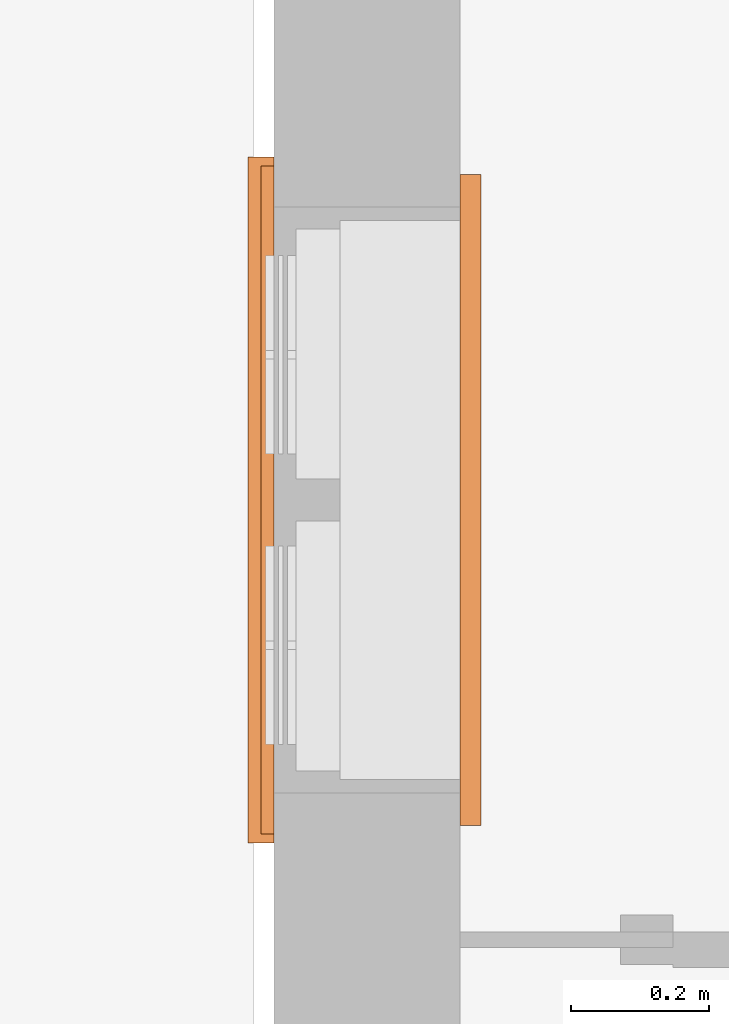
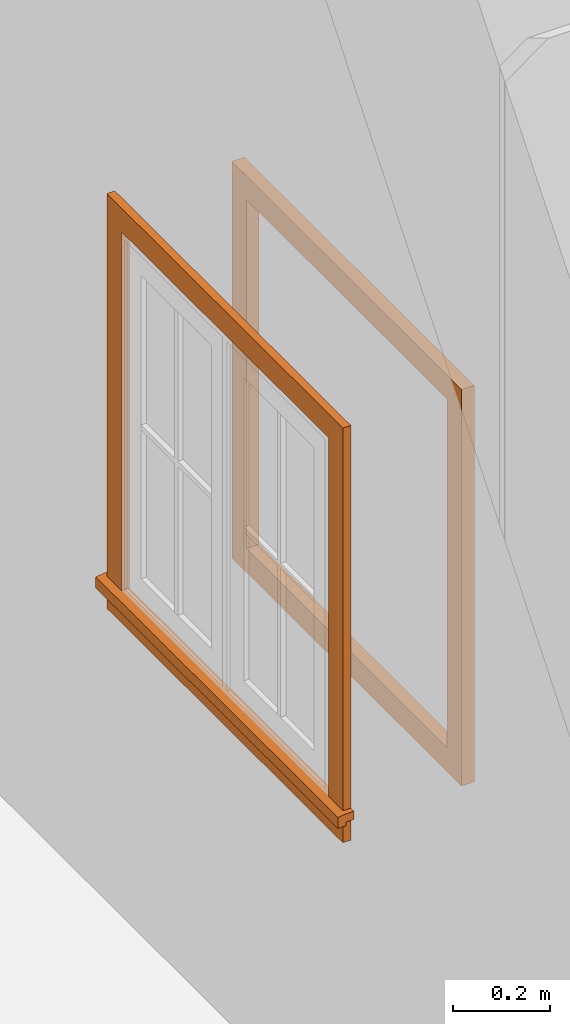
# One storey, part 12 of 16: 2 proxies.
"""IFC2X3 building model written with IfcOpenShell, lengths in millimetres."""

import ifcopenshell
import ifcopenshell.guid

model = None  # the IFC model being written
_history = None  # IfcOwnerHistory: only IFC2X3 demands one
_inside = {}  # id of a spatial element -> (the spatial element, [elements in it])
_under = {}  # id of a project, library or spatial element -> (it, [spatial elements below it])
_declared = {}  # id of a project -> (the project, [libraries it declares])
_typed = {}  # id of a type object -> (the type object, [elements of that type])
_made_of = {}  # id of a material, layer set ... -> (it, [elements and type objects made of it])


def new_model(schema):
    """Start an empty IFC model of exactly this schema.

    Asked for "IFC4X3", IfcOpenShell would pick the latest addendum, in which some entities
    have other attributes; the version numbers below select the first issue.
    IFC2X3 requires an IfcOwnerHistory on every rooted entity: one is made here for all.
    """
    global model, _history
    if schema == "IFC4X3":
        model = ifcopenshell.file(schema_version=(4, 3, 0, 0))
    else:
        model = ifcopenshell.file(schema=schema)
    _inside.clear()
    _under.clear()
    _declared.clear()
    _typed.clear()
    _made_of.clear()
    _history = None
    if model.schema == "IFC2X3":
        org = make("IfcOrganization", Name="unknown")
        user = make(
            "IfcPersonAndOrganization",
            ThePerson=make("IfcPerson", FamilyName="unknown"),
            TheOrganization=org,
        )
        app = make(
            "IfcApplication",
            ApplicationDeveloper=org,
            Version="unknown",
            ApplicationFullName="unknown",
            ApplicationIdentifier="unknown",
        )
        _history = make(
            "IfcOwnerHistory",
            OwningUser=user,
            OwningApplication=app,
            ChangeAction="ADDED",
            CreationDate=0,
        )
    return model


def make(cls, **values):
    """One entity of the class cls with the attributes given. An attribute that is None is left unset."""
    return model.create_entity(
        cls, **{name: value for name, value in values.items() if value is not None}
    )


def entity(cls, *values):
    """Any entity or typed value of the class cls, its attributes in the order of the schema. None: left unset."""
    e = model.create_entity(cls)
    for i, value in enumerate(values):
        if value is not None:
            e[i] = value
    return e


def rooted(cls, **values):
    """An entity with a GlobalId (a new one), such as an element, a storey or a relation."""
    return make(cls, GlobalId=ifcopenshell.guid.new(), OwnerHistory=_history, **values)


def si_unit(unit_type, name, prefix=None):
    """IfcSIUnit, for example si_unit("LENGTHUNIT", "METRE", prefix="MILLI")."""
    return make("IfcSIUnit", UnitType=unit_type, Prefix=prefix, Name=name)


def converted_unit(unit_type, name, factor, base, dimensions=None, offset=None):
    """IfcConversionBasedUnit, such as the inch: factor (a typed value) times the base unit."""
    return make(
        "IfcConversionBasedUnit"
        if offset is None
        else "IfcConversionBasedUnitWithOffset",
        ConversionOffset=offset,
        Dimensions=None
        if dimensions is None
        else entity("IfcDimensionalExponents", *dimensions),
        UnitType=unit_type,
        Name=name,
        ConversionFactor=make(
            "IfcMeasureWithUnit", ValueComponent=factor, UnitComponent=base
        ),
    )


def derived_unit(unit_type, elements):
    """IfcDerivedUnit: a product of units, each with its exponent."""
    return make(
        "IfcDerivedUnit",
        Elements=[
            make("IfcDerivedUnitElement", Unit=unit, Exponent=power)
            for unit, power in elements
        ],
        UnitType=unit_type,
    )


def assignment(units):
    """IfcUnitAssignment: the units of a project."""
    return None if units is None else make("IfcUnitAssignment", Units=units)


def point(xyz):
    """IfcCartesianPoint."""
    return None if xyz is None else make("IfcCartesianPoint", Coordinates=xyz)


def direction(xyz):
    """IfcDirection."""
    return None if xyz is None else make("IfcDirection", DirectionRatios=xyz)


def frame(location, z_axis=None, x_axis=None):
    """IfcAxis2Placement3D, a coordinate frame: its origin and axes. An axis left out is left unset."""
    return make(
        "IfcAxis2Placement3D",
        Location=point(location),
        Axis=direction(z_axis),
        RefDirection=direction(x_axis),
    )


def frame_2d(location, x_axis=None):
    """IfcAxis2Placement2D, a coordinate frame in the plane: its origin and x axis."""
    return make(
        "IfcAxis2Placement2D", Location=point(location), RefDirection=direction(x_axis)
    )


def origin():
    """The frame at (0, 0, 0) with its axes left unset."""
    return frame((0.0, 0.0, 0.0))


def place(relative_to, where):
    """IfcLocalPlacement: puts the frame where relative to a parent placement (None: the world)."""
    return make(
        "IfcLocalPlacement", PlacementRelTo=relative_to, RelativePlacement=where
    )


def context(
    kind, dimensions, precision=None, world=None, true_north=None, identifier=None
):
    """IfcGeometricRepresentationContext, for example the 3D "Model" context."""
    return make(
        "IfcGeometricRepresentationContext",
        ContextIdentifier=identifier,
        ContextType=kind,
        CoordinateSpaceDimension=dimensions,
        Precision=precision,
        WorldCoordinateSystem=world,
        TrueNorth=true_north,
    )


def subcontext(parent, identifier, kind, view, scale=None):
    """IfcGeometricRepresentationSubContext, for example "Body" below "Model"."""
    return make(
        "IfcGeometricRepresentationSubContext",
        ContextIdentifier=identifier,
        ContextType=kind,
        ParentContext=parent,
        TargetScale=scale,
        TargetView=view,
    )


def project(units=None, contexts=None):
    """IfcProject with its units and contexts."""
    return rooted(
        "IfcProject",
        Name="project",
        RepresentationContexts=contexts,
        UnitsInContext=assignment(units),
    )


def spatial(cls, under=None, at=None, **own):
    """A site, building, storey or space (cls), placed at a placement, below another one or the project."""
    s = rooted(cls, ObjectPlacement=at, **own)
    if under is not None:
        _under.setdefault(under.id(), (under, []))[1].append(s)
    return s


def polyline(points):
    """IfcPolyline through the points."""
    return make("IfcPolyline", Points=[point(p) for p in points])


def profile(cls, at=None, kind="AREA", **sizes):
    """A parametric profile (cls). Its sizes go by their IFC names, for example OverallWidth=200.0."""
    return make(cls, ProfileType=kind, Position=at, **sizes)


def rectangle(**sizes):
    """IfcRectangleProfileDef."""
    return profile("IfcRectangleProfileDef", **sizes)


def outline(outer, holes=None, kind="AREA"):
    """IfcArbitraryClosedProfileDef: a profile drawn as a closed curve; with holes, ...WithVoids."""
    if holes is None:
        return make("IfcArbitraryClosedProfileDef", ProfileType=kind, OuterCurve=outer)
    return make(
        "IfcArbitraryProfileDefWithVoids",
        ProfileType=kind,
        OuterCurve=outer,
        InnerCurves=holes,
    )


def extrude(swept, where, along, depth):
    """IfcExtrudedAreaSolid: the profile swept, set in the frame where, extruded along a direction by depth."""
    return make(
        "IfcExtrudedAreaSolid",
        SweptArea=swept,
        Position=where,
        ExtrudedDirection=direction(along),
        Depth=depth,
    )


def shape(context_of_items, identifier, shape_type, items):
    """IfcShapeRepresentation: the items that make up one representation, for example the "Body"."""
    return make(
        "IfcShapeRepresentation",
        ContextOfItems=context_of_items,
        RepresentationIdentifier=identifier,
        RepresentationType=shape_type,
        Items=items,
    )


def source(mapping_origin, context_of_items, identifier, shape_type, items):
    """IfcRepresentationMap: a shape defined once, which mapped items show again and again."""
    return make(
        "IfcRepresentationMap",
        MappingOrigin=mapping_origin,
        MappedRepresentation=shape(context_of_items, identifier, shape_type, items),
    )


def transform(
    local_origin,
    x_axis=None,
    y_axis=None,
    z_axis=None,
    scale=None,
    scale2=None,
    scale3=None,
    uniform=True,
):
    """IfcCartesianTransformationOperator3D, or its non-uniform kind. x_axis, y_axis, z_axis: its Axis1, 2, 3."""
    if uniform:
        return make(
            "IfcCartesianTransformationOperator3D",
            Axis1=direction(x_axis),
            Axis2=direction(y_axis),
            LocalOrigin=point(local_origin),
            Scale=scale,
            Axis3=direction(z_axis),
        )
    return make(
        "IfcCartesianTransformationOperator3DnonUniform",
        Axis1=direction(x_axis),
        Axis2=direction(y_axis),
        LocalOrigin=point(local_origin),
        Scale=scale,
        Axis3=direction(z_axis),
        Scale2=scale2,
        Scale3=scale3,
    )


def mapped(mapping_source, mapping_target):
    """IfcMappedItem: shows the shape of a source again, moved by a transform."""
    return make(
        "IfcMappedItem", MappingSource=mapping_source, MappingTarget=mapping_target
    )


def material(Name=None, Category=None):
    """IfcMaterial."""
    return make("IfcMaterial", Name=Name, Category=Category)


def made_of(thing, what):
    """Note that an element or type object is made of a material, layer set ...; save() writes the relation."""
    if what is not None:
        _made_of.setdefault(what.id(), (what, []))[1].append(thing)
    return thing


def type_object(cls, material=None, **own):
    """A type object (cls), such as IfcWallType, which elements share."""
    return made_of(rooted(cls, **own), material)


def type_shapes(of_type, sources):
    """Give a type object the sources (RepresentationMaps) that its elements show as mapped items."""
    of_type.RepresentationMaps = sources


def element(
    cls,
    number,
    at=None,
    inside=None,
    cuts=None,
    type_object=None,
    material=None,
    context=None,
    identifier="Body",
    shape_type=None,
    held_by="IfcProductDefinitionShape",
    body=None,
    shapes=None,
    **own,
):
    """One element of the class cls, such as IfcWall. Its Tag is "e" and its number.

    at: its placement. inside: the storey or other place that contains it. cuts: it is an
    opening in that element (IfcRelVoidsElement). A single representation is given by context,
    identifier, shape_type and body (its items); several are given by shapes. held_by: the class
    of the entity that holds the representations. save() writes the other relations.
    """
    e = rooted(cls, Tag="e%d" % number, ObjectPlacement=at, **own)
    if body is not None:
        shapes = [shape(context, identifier, shape_type, body)]
    if shapes is not None:
        e.Representation = make(held_by, Representations=shapes)
    if inside is not None:
        _inside.setdefault(inside.id(), (inside, []))[1].append(e)
    if cuts is not None:
        rooted(
            "IfcRelVoidsElement", RelatingBuildingElement=cuts, RelatedOpeningElement=e
        )
    if type_object is not None:
        _typed.setdefault(type_object.id(), (type_object, []))[1].append(e)
    return made_of(e, material)


def aggregate(whole, parts):
    """IfcRelAggregates: a whole, such as a stair, and the parts it consists of."""
    return rooted("IfcRelAggregates", RelatingObject=whole, RelatedObjects=parts)


def save(model, path):
    """Write the relations noted so far, then the file.

    IfcRelAggregates (storeys below a building ...), IfcRelContainedInSpatialStructure (elements
    in a storey), IfcRelDefinesByType, IfcRelAssociatesMaterial and IfcRelDeclares: one each for
    every whole, place, type object, material and project.
    """
    for whole, parts in _under.values():
        aggregate(whole, parts)
    for where, things in _inside.values():
        rooted(
            "IfcRelContainedInSpatialStructure",
            RelatedElements=things,
            RelatingStructure=where,
        )
    for kind, things in _typed.values():
        rooted("IfcRelDefinesByType", RelatedObjects=things, RelatingType=kind)
    for what, things in _made_of.values():
        rooted("IfcRelAssociatesMaterial", RelatedObjects=things, RelatingMaterial=what)
    for by, libraries in _declared.values():
        rooted("IfcRelDeclares", RelatingContext=by, RelatedDefinitions=libraries)
    model.write(path)


model = new_model("IFC2X3")

# Units and contexts
model_context = context("Model", 3, precision=0.01, world=origin(), true_north=direction((4.05803320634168e-15, -1.0)))
body_context = subcontext(model_context, "Body", "Model", "MODEL_VIEW")
ifc_project = project(units=[si_unit("LENGTHUNIT", "METRE", prefix="MILLI"), si_unit("AREAUNIT", "SQUARE_METRE"), si_unit("VOLUMEUNIT", "CUBIC_METRE"), converted_unit("PLANEANGLEUNIT", "DEGREE", entity("IfcRatioMeasure", 0.0174532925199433), si_unit("PLANEANGLEUNIT", "RADIAN"), dimensions=[0, 0, 0, 0, 0, 0, 0]), si_unit("MASSUNIT", "GRAM", prefix="KILO"), derived_unit("MASSDENSITYUNIT", [(si_unit("MASSUNIT", "GRAM", prefix="KILO"), 1), (si_unit("LENGTHUNIT", "METRE"), -3)]), si_unit("TIMEUNIT", "SECOND"), si_unit("FREQUENCYUNIT", "HERTZ"), si_unit("THERMODYNAMICTEMPERATUREUNIT", "DEGREE_CELSIUS"), derived_unit("THERMALTRANSMITTANCEUNIT", [(si_unit("MASSUNIT", "GRAM", prefix="KILO"), 1), (si_unit("THERMODYNAMICTEMPERATUREUNIT", "KELVIN"), -1), (si_unit("TIMEUNIT", "SECOND"), -3)]), derived_unit("VOLUMETRICFLOWRATEUNIT", [(si_unit("LENGTHUNIT", "METRE"), 3), (si_unit("TIMEUNIT", "SECOND"), -1)]), si_unit("ELECTRICCURRENTUNIT", "AMPERE"), si_unit("ELECTRICVOLTAGEUNIT", "VOLT"), si_unit("POWERUNIT", "WATT"), si_unit("FORCEUNIT", "NEWTON", prefix="KILO"), si_unit("ILLUMINANCEUNIT", "LUX"), si_unit("LUMINOUSFLUXUNIT", "LUMEN"), si_unit("LUMINOUSINTENSITYUNIT", "CANDELA"), derived_unit("USERDEFINED", [(si_unit("MASSUNIT", "GRAM", prefix="KILO"), -1), (si_unit("LENGTHUNIT", "METRE"), -2), (si_unit("TIMEUNIT", "SECOND"), 3), (si_unit("LUMINOUSFLUXUNIT", "LUMEN"), 1)]), derived_unit("LINEARVELOCITYUNIT", [(si_unit("LENGTHUNIT", "METRE"), 1), (si_unit("TIMEUNIT", "SECOND"), -1)]), si_unit("PRESSUREUNIT", "PASCAL"), derived_unit("USERDEFINED", [(si_unit("LENGTHUNIT", "METRE"), -2), (si_unit("MASSUNIT", "GRAM", prefix="KILO"), 1), (si_unit("TIMEUNIT", "SECOND"), -2)])], contexts=[model_context])

# Site, building, storey
site_placement = place(None, frame((927466.849349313, 583801.882853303, 0.0), z_axis=(0.0, 0.0, 1.0), x_axis=(-1.0, 0.0, 0.0)))
site = spatial("IfcSite", under=ifc_project, at=site_placement, Name="Surface", CompositionType="ELEMENT")
building_placement = place(site_placement, origin())
building = spatial("IfcBuilding", under=site, at=building_placement, CompositionType="ELEMENT")
storey_placement = place(building_placement, frame((0.0, 0.0, 42810.0)))
storey = spatial("IfcBuildingStorey", under=building, at=storey_placement, Name="Hardstand", CompositionType="ELEMENT", Elevation=42810.0)

# Proxies
ifc_material_1 = material(Name="Clad - White")
building_element_proxy_type_1 = type_object("IfcBuildingElementProxyType", Name="with Sill", PredefinedType="NOTDEFINED", material=ifc_material_1)
shared_shape_1 = source(origin(), body_context, "Body", "SweptSolid", [
    extrude(rectangle(XDim=969.999999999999, YDim=60.0, at=frame_2d((0.0, -6.75015598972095e-14), x_axis=(1.0, 0.0))), frame((0.0, -950.432370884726, 0.0), z_axis=(0.0, 0.0, 1.0), x_axis=(-1.0, 0.0, 0.0)), (0.0, 0.0, 1.0), 19.05),
    extrude(outline(polyline([(-19.0499999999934, -15.2395991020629), (0.0, -15.2395991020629), (0.0, -5.67196998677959), (19.0499999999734, -5.67196998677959), (19.0499999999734, 14.760400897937), (0.0, 14.760400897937), (-19.0499999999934, 12.3023363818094), (-19.0499999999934, -15.2395991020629)])), frame((-497.699999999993, -914.760400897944, 19.0499999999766), z_axis=(1.0, 0.0, 0.0), x_axis=(0.0, 0.0, -1.0)), (0.0, 0.0, 1.0), 995.400000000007),
    extrude(outline(polyline([(-495.0, -485.0), (465.0, -485.0), (465.0, -425.0), (-435.0, -425.0), (-435.0, 425.0), (465.0, 425.0), (465.0, 485.0), (-495.0, 485.0), (-495.0, -485.0)])), frame((0.0, -435.0, 0.0), z_axis=(0.0, 0.0, 1.0), x_axis=(0.0, -1.0, 0.0)), (0.0, 0.0, 1.0), 19.05),
])
type_shapes(building_element_proxy_type_1, [shared_shape_1])
proxy_1_placement = place(storey_placement, frame((-145780.545849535, 9409.58162671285, 1800.0), z_axis=(1.0, 0.0, 0.0), x_axis=(0.0, 1.0, 0.0)))
element("IfcBuildingElementProxy", 1, at=proxy_1_placement, inside=storey, type_object=building_element_proxy_type_1, material=ifc_material_1, Name="M_Trim-Window-Exterior-Flat:with Sill", ObjectType="with Sill", context=body_context, shape_type="MappedRepresentation", body=[
    mapped(shared_shape_1, transform((0.0, 0.0, 0.0), scale=1.0)),
])
ifc_material_2 = material(Name="Wood - Stained")
building_element_proxy_type_2 = type_object("IfcBuildingElementProxyType", Name="Picture Frame", PredefinedType="NOTDEFINED", material=ifc_material_2)
shared_shape_2 = source(origin(), body_context, "Body", "SweptSolid", [
    extrude(outline(polyline([(-472.299999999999, -497.299999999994), (472.299999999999, -497.299999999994), (472.299999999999, 497.299999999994), (-472.299999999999, 497.299999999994), (-472.299999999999, -497.299999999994)]), holes=[polyline([(-412.300000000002, -437.299999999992), (-412.300000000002, 437.299999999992), (412.299999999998, 437.299999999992), (412.299999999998, -437.299999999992), (-412.300000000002, -437.299999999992)])]), frame((0.0, -450.0, 0.0), z_axis=(0.0, 0.0, 1.0), x_axis=(-1.0, 0.0, 0.0)), (0.0, 0.0, 1.0), 30.0),
])
type_shapes(building_element_proxy_type_2, [shared_shape_2])
proxy_2_placement = place(storey_placement, frame((-146050.545849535, 9409.58162671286, 1800.0), z_axis=(-1.0, 0.0, 0.0), x_axis=(0.0, -1.0, 0.0)))
element("IfcBuildingElementProxy", 2, at=proxy_2_placement, inside=storey, type_object=building_element_proxy_type_2, material=ifc_material_2, Name="M_Trim-Window-Interior-Flat:Picture Frame", ObjectType="Picture Frame", context=body_context, shape_type="MappedRepresentation", body=[
    mapped(shared_shape_2, transform((0.0, 0.0, 0.0), scale=1.0)),
])

save(model, "model.ifc")
